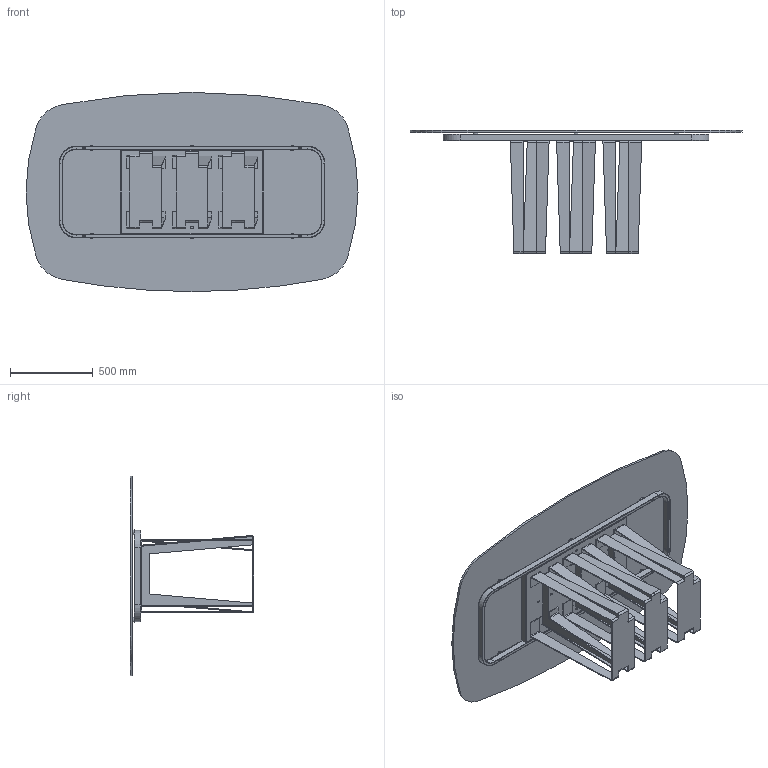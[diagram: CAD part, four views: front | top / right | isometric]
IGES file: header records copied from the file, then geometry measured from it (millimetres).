
Start section: SolidWorks IGES file using analytic representation for surfaces
Global section: file name: Y:\eforma\TECNICO\SOLIDWORKS\E-FORMA\1-TAVOLI\NARCISO\02 parts\NA41G.IGS; native system: SolidWorks 2022; preprocessor: SolidWorks 2022; author: eforma.tech; date: 240807.163737; units: millimetre
Bounding box: 2000 x 742 x 1200 mm (x, y, z)
Volume: 37622569 mm3; surface area: 9316791.3 mm2
Topology: 34 solids, 34 shells, 1016 faces, 2470 edges, 1516 vertices
Faces by surface type: plane 545, revolution 435, bspline 36
